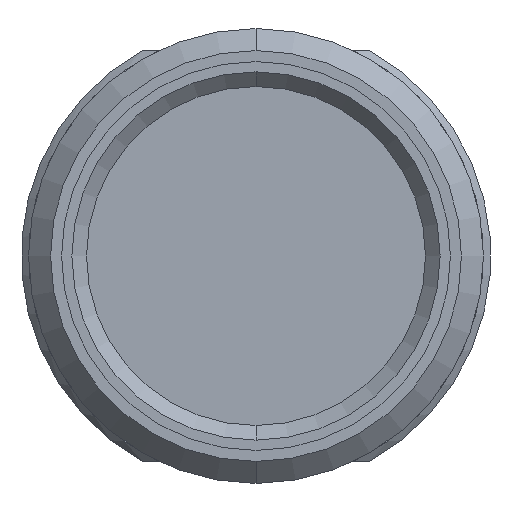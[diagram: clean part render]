
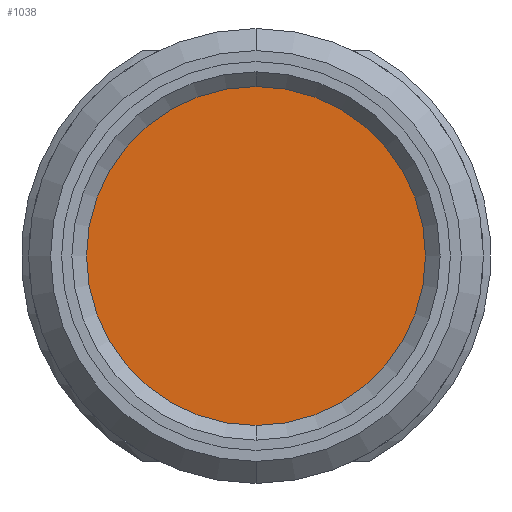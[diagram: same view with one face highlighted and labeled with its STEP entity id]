
A CAD part, left-side view. The second image highlights one B-rep face of the part: STEP entity #1038.
In plain terms, the highlighted planar face has unit normal (-1, 0, 0).
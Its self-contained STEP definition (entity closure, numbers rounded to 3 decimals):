
#117 = CARTESIAN_POINT ( 'NONE',  ( -11.87, 0., 0. ) ) ;
#189 = CARTESIAN_POINT ( 'NONE',  ( -11.87, 2.31, 0. ) ) ;
#271 = CARTESIAN_POINT ( 'NONE',  ( -11.87, 0., 0. ) ) ;
#273 = DIRECTION ( 'NONE',  ( 0., 0., 1. ) ) ;
#338 = EDGE_CURVE ( 'NONE', #814, #903, #1496, .T. ) ;
#436 = DIRECTION ( 'NONE',  ( 0., 0., 1. ) ) ;
#439 = EDGE_LOOP ( 'NONE', ( #1681, #1756 ) ) ;
#812 = CIRCLE ( 'NONE', #1217, 2.31 ) ;
#814 = VERTEX_POINT ( 'NONE', #1824 ) ;
#903 = VERTEX_POINT ( 'NONE', #1751 ) ;
#1011 = DIRECTION ( 'NONE',  ( 1., 0., 0. ) ) ;
#1021 = DIRECTION ( 'NONE',  ( 0., 0., -1. ) ) ;
#1038 = ADVANCED_FACE ( 'NONE', ( #1250 ), #1634, .F. ) ;
#1192 = AXIS2_PLACEMENT_3D ( 'NONE', #117, #1245, #273 ) ;
#1217 = AXIS2_PLACEMENT_3D ( 'NONE', #271, #1405, #436 ) ;
#1245 = DIRECTION ( 'NONE',  ( -1., 0., 0. ) ) ;
#1250 = FACE_OUTER_BOUND ( 'NONE', #439, .T. ) ;
#1405 = DIRECTION ( 'NONE',  ( -1., 0., 0. ) ) ;
#1462 = AXIS2_PLACEMENT_3D ( 'NONE', #189, #1011, #1021 ) ;
#1496 = CIRCLE ( 'NONE', #1192, 2.31 ) ;
#1527 = EDGE_CURVE ( 'NONE', #903, #814, #812, .T. ) ;
#1634 = PLANE ( 'NONE',  #1462 ) ;
#1681 = ORIENTED_EDGE ( 'NONE', *, *, #338, .T. ) ;
#1751 = CARTESIAN_POINT ( 'NONE',  ( -11.87, 0., -2.31 ) ) ;
#1756 = ORIENTED_EDGE ( 'NONE', *, *, #1527, .T. ) ;
#1824 = CARTESIAN_POINT ( 'NONE',  ( -11.87, 0., 2.31 ) ) ;
